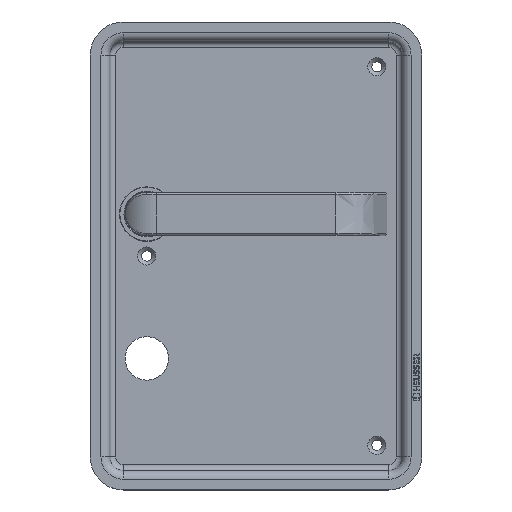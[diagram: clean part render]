
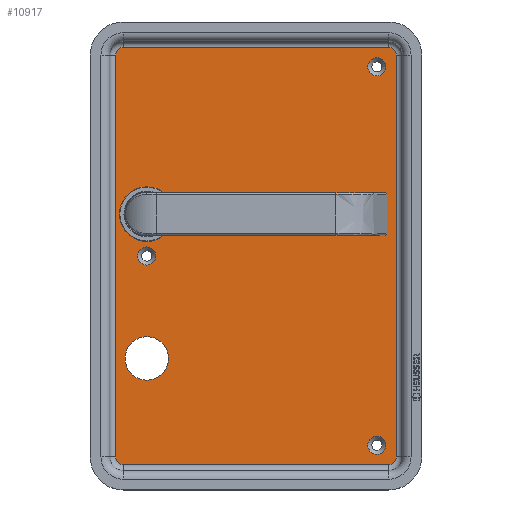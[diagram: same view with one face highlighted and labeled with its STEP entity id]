
A CAD part, top view. The second image highlights one B-rep face of the part: STEP entity #10917.
In plain terms, the highlighted planar face has unit normal (0, 0, 1).
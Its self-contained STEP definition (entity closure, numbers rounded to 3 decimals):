
#677=LINE('',#14643,#1630);
#679=LINE('',#14661,#1632);
#680=LINE('',#14664,#1633);
#682=LINE('',#14681,#1635);
#1630=VECTOR('',#12321,10.);
#1632=VECTOR('',#12343,10.);
#1633=VECTOR('',#12346,10.);
#1635=VECTOR('',#12368,10.);
#2668=FACE_BOUND('',#3465,.T.);
#2669=FACE_BOUND('',#3466,.T.);
#2670=FACE_BOUND('',#3467,.T.);
#2671=FACE_BOUND('',#3468,.T.);
#2672=FACE_BOUND('',#3469,.T.);
#2828=FACE_OUTER_BOUND('',#3464,.T.);
#3464=EDGE_LOOP('',(#7190,#7191,#7192,#7193,#7194,#7195,#7196,#7197));
#3465=EDGE_LOOP('',(#7198));
#3466=EDGE_LOOP('',(#7199));
#3467=EDGE_LOOP('',(#7200));
#3468=EDGE_LOOP('',(#7201));
#3469=EDGE_LOOP('',(#7202));
#4112=CIRCLE('',#11533,4.);
#4113=CIRCLE('',#11535,4.);
#4120=CIRCLE('',#11545,4.);
#4121=CIRCLE('',#11547,4.);
#4170=CIRCLE('',#11647,4.65);
#4171=CIRCLE('',#11649,4.65);
#4172=CIRCLE('',#11651,14.);
#4173=CIRCLE('',#11652,11.15);
#4174=CIRCLE('',#11653,4.65);
#4307=VERTEX_POINT('',#14637);
#4309=VERTEX_POINT('',#14641);
#4311=VERTEX_POINT('',#14647);
#4312=VERTEX_POINT('',#14651);
#4315=VERTEX_POINT('',#14659);
#4316=VERTEX_POINT('',#14663);
#4319=VERTEX_POINT('',#14671);
#4320=VERTEX_POINT('',#14675);
#4381=VERTEX_POINT('',#14893);
#4382=VERTEX_POINT('',#14896);
#4383=VERTEX_POINT('',#14899);
#4384=VERTEX_POINT('',#14901);
#4385=VERTEX_POINT('',#14903);
#5357=EDGE_CURVE('',#4309,#4307,#677,.T.);
#5360=EDGE_CURVE('',#4311,#4309,#4112,.T.);
#5361=EDGE_CURVE('',#4307,#4312,#4113,.T.);
#5366=EDGE_CURVE('',#4315,#4311,#679,.T.);
#5367=EDGE_CURVE('',#4312,#4316,#680,.T.);
#5372=EDGE_CURVE('',#4319,#4315,#4120,.T.);
#5373=EDGE_CURVE('',#4316,#4320,#4121,.T.);
#5376=EDGE_CURVE('',#4320,#4319,#682,.T.);
#5477=EDGE_CURVE('',#4381,#4381,#4170,.T.);
#5478=EDGE_CURVE('',#4382,#4382,#4171,.T.);
#5479=EDGE_CURVE('',#4383,#4383,#4172,.T.);
#5480=EDGE_CURVE('',#4384,#4384,#4173,.T.);
#5481=EDGE_CURVE('',#4385,#4385,#4174,.T.);
#7190=ORIENTED_EDGE('',*,*,#5376,.F.);
#7191=ORIENTED_EDGE('',*,*,#5373,.F.);
#7192=ORIENTED_EDGE('',*,*,#5367,.F.);
#7193=ORIENTED_EDGE('',*,*,#5361,.F.);
#7194=ORIENTED_EDGE('',*,*,#5357,.F.);
#7195=ORIENTED_EDGE('',*,*,#5360,.F.);
#7196=ORIENTED_EDGE('',*,*,#5366,.F.);
#7197=ORIENTED_EDGE('',*,*,#5372,.F.);
#7198=ORIENTED_EDGE('',*,*,#5479,.T.);
#7199=ORIENTED_EDGE('',*,*,#5480,.T.);
#7200=ORIENTED_EDGE('',*,*,#5478,.F.);
#7201=ORIENTED_EDGE('',*,*,#5477,.F.);
#7202=ORIENTED_EDGE('',*,*,#5481,.F.);
#9953=PLANE('',#11650);
#10917=ADVANCED_FACE('',(#2828,#2668,#2669,#2670,#2671,#2672),#9953,.T.);
#11533=AXIS2_PLACEMENT_3D('',#14649,#12328,#12329);
#11535=AXIS2_PLACEMENT_3D('',#14652,#12332,#12333);
#11545=AXIS2_PLACEMENT_3D('',#14673,#12356,#12357);
#11547=AXIS2_PLACEMENT_3D('',#14676,#12360,#12361);
#11647=AXIS2_PLACEMENT_3D('',#14894,#12613,#12614);
#11649=AXIS2_PLACEMENT_3D('',#14897,#12617,#12618);
#11650=AXIS2_PLACEMENT_3D('',#14898,#12619,#12620);
#11651=AXIS2_PLACEMENT_3D('',#14900,#12621,#12622);
#11652=AXIS2_PLACEMENT_3D('',#14902,#12623,#12624);
#11653=AXIS2_PLACEMENT_3D('',#14904,#12625,#12626);
#12321=DIRECTION('',(0.,-1.,0.));
#12328=DIRECTION('center_axis',(0.,0.,-1.));
#12329=DIRECTION('ref_axis',(0.707,0.707,0.));
#12332=DIRECTION('center_axis',(0.,0.,-1.));
#12333=DIRECTION('ref_axis',(0.707,-0.707,0.));
#12343=DIRECTION('',(1.,0.,0.));
#12346=DIRECTION('',(-1.,0.,0.));
#12356=DIRECTION('center_axis',(0.,0.,-1.));
#12357=DIRECTION('ref_axis',(-0.707,0.707,0.));
#12360=DIRECTION('center_axis',(0.,0.,-1.));
#12361=DIRECTION('ref_axis',(-0.707,-0.707,0.));
#12368=DIRECTION('',(0.,1.,0.));
#12613=DIRECTION('center_axis',(0.,0.,1.));
#12614=DIRECTION('ref_axis',(-1.,0.,0.));
#12617=DIRECTION('center_axis',(0.,0.,1.));
#12618=DIRECTION('ref_axis',(-1.,0.,0.));
#12619=DIRECTION('center_axis',(0.,0.,1.));
#12620=DIRECTION('ref_axis',(1.,0.,0.));
#12621=DIRECTION('center_axis',(0.,0.,-1.));
#12622=DIRECTION('ref_axis',(1.,0.,0.));
#12623=DIRECTION('center_axis',(0.,0.,-1.));
#12624=DIRECTION('ref_axis',(-1.,0.,0.));
#12625=DIRECTION('center_axis',(0.,0.,1.));
#12626=DIRECTION('ref_axis',(-1.,0.,0.));
#14637=CARTESIAN_POINT('',(70.865,-93.546,-5.5));
#14641=CARTESIAN_POINT('',(70.865,112.454,-5.5));
#14643=CARTESIAN_POINT('',(70.865,60.954,-5.5));
#14647=CARTESIAN_POINT('',(66.865,116.454,-5.5));
#14649=CARTESIAN_POINT('Origin',(66.865,112.454,-5.5));
#14651=CARTESIAN_POINT('',(66.865,-97.546,-5.5));
#14652=CARTESIAN_POINT('Origin',(66.865,-93.546,-5.5));
#14659=CARTESIAN_POINT('',(-69.135,116.454,-5.5));
#14661=CARTESIAN_POINT('',(-35.135,116.454,-5.5));
#14663=CARTESIAN_POINT('',(-69.135,-97.546,-5.5));
#14664=CARTESIAN_POINT('',(32.865,-97.546,-5.5));
#14671=CARTESIAN_POINT('',(-73.135,112.454,-5.5));
#14673=CARTESIAN_POINT('Origin',(-69.135,112.454,-5.5));
#14675=CARTESIAN_POINT('',(-73.135,-93.546,-5.5));
#14676=CARTESIAN_POINT('Origin',(-69.135,-93.546,-5.5));
#14681=CARTESIAN_POINT('',(-73.135,-42.046,-5.5));
#14893=CARTESIAN_POINT('',(65.515,-87.546,-5.5));
#14894=CARTESIAN_POINT('Origin',(60.865,-87.546,-5.5));
#14896=CARTESIAN_POINT('',(65.515,106.454,-5.5));
#14897=CARTESIAN_POINT('Origin',(60.865,106.454,-5.5));
#14898=CARTESIAN_POINT('Origin',(-1.135,9.454,-5.5));
#14899=CARTESIAN_POINT('',(-71.135,30.954,-5.5));
#14900=CARTESIAN_POINT('Origin',(-57.135,30.954,-5.5));
#14901=CARTESIAN_POINT('',(-45.985,-43.046,-5.5));
#14902=CARTESIAN_POINT('Origin',(-57.135,-43.046,-5.5));
#14903=CARTESIAN_POINT('',(-52.485,9.454,-5.5));
#14904=CARTESIAN_POINT('Origin',(-57.135,9.454,-5.5));
